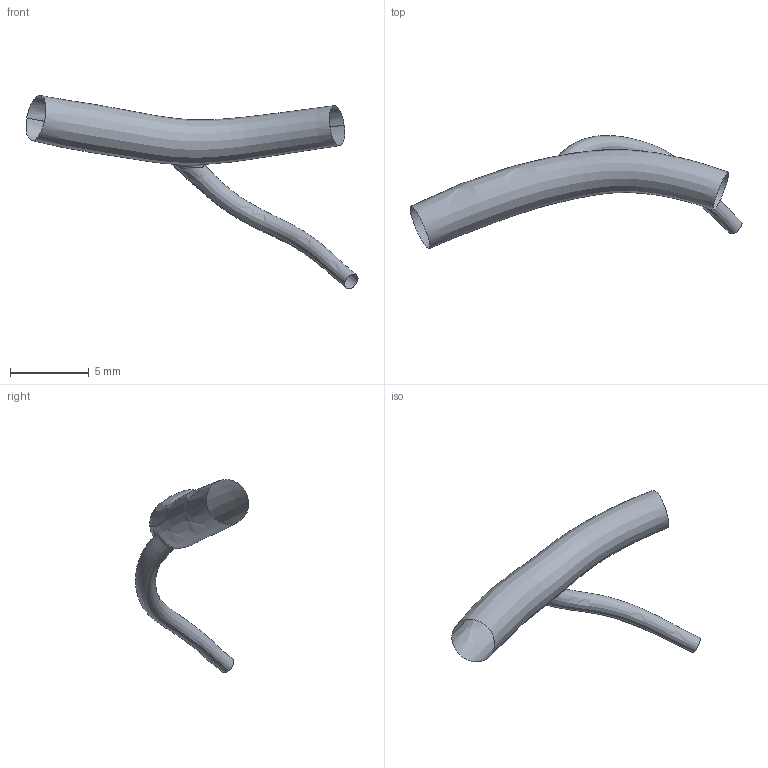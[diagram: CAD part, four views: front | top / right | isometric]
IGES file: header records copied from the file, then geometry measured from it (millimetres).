
Global section: file name: C:\Documents and Settings\Administrator\Desktop\FDA-Pig\Domestic RCA\Pig_000137\rv.ed.igs; native system: Rhinoceros ( May 19 2006 ); preprocessor: Trout Lake IGES 012 May 19 2006; date: 111205.185828; units: centimetre
Bounding box: 21.03 x 7.17 x 12.23 mm (x, y, z)
Surface area: 233.7 mm2 (no closed solid volume)
Topology: 0 solids, 0 shells, 3 faces, 39 edges, 36 vertices
Faces by surface type: bspline 3
